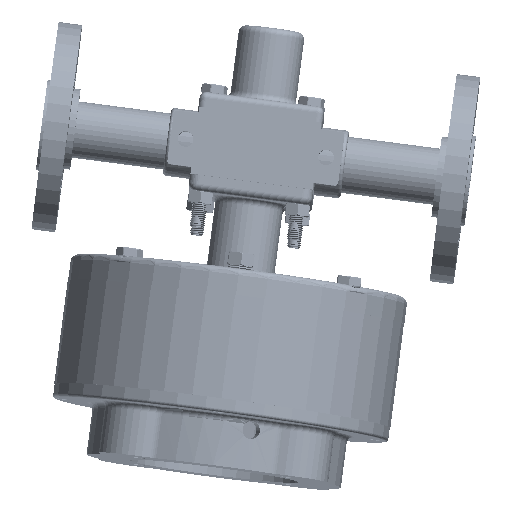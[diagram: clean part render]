
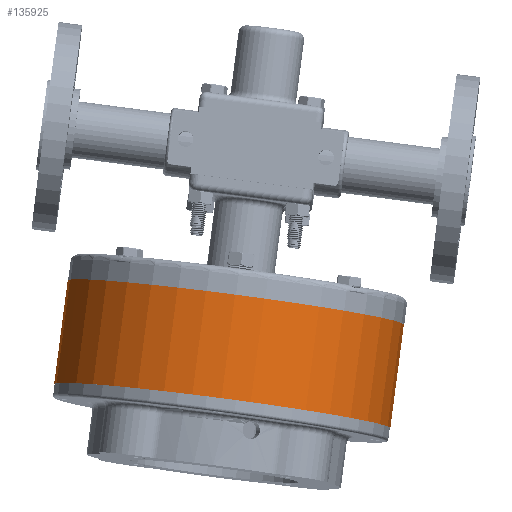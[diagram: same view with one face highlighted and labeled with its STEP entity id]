
A CAD part, front view. The second image highlights one B-rep face of the part: STEP entity #135925.
In plain terms, the highlighted cylindrical face has radius 79.756 mm (diameter 159.512 mm), a partial arc.
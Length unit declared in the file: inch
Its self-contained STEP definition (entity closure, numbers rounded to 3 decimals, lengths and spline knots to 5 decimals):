
#5154 = AXIS2_PLACEMENT_3D ( 'NONE', #9318, #56390, #7047 ) ;
#7047 = DIRECTION ( 'NONE',  ( -0.992, 0.01, 0.129 ) ) ;
#9181 = DIRECTION ( 'NONE',  ( -0.13, -0.046, -0.99 ) ) ;
#9318 = CARTESIAN_POINT ( 'NONE',  ( -0.63501, 99.70561, 30.96424 ) ) ;
#9874 = CARTESIAN_POINT ( 'NONE',  ( -0.63501, 99.70561, 30.96424 ) ) ;
#15764 = EDGE_CURVE ( 'NONE', #26390, #62039, #89692, .T. ) ;
#16629 = ORIENTED_EDGE ( 'NONE', *, *, #114317, .T. ) ;
#20576 = CARTESIAN_POINT ( 'NONE',  ( 2.47841, 99.6739, 30.55779 ) ) ;
#23527 = AXIS2_PLACEMENT_3D ( 'NONE', #9874, #89646, #78262 ) ;
#26390 = VERTEX_POINT ( 'NONE', #126314 ) ;
#35739 = LINE ( 'NONE', #20576, #142368 ) ;
#37669 = VECTOR ( 'NONE', #67684, 39.37008 ) ;
#38213 = CIRCLE ( 'NONE', #23527, 3.14 ) ;
#48423 = ORIENTED_EDGE ( 'NONE', *, *, #124238, .F. ) ;
#52952 = CARTESIAN_POINT ( 'NONE',  ( -3.99981, 99.64792, 29.45216 ) ) ;
#56390 = DIRECTION ( 'NONE',  ( -0.13, -0.046, -0.99 ) ) ;
#62039 = VERTEX_POINT ( 'NONE', #52952 ) ;
#67684 = DIRECTION ( 'NONE',  ( -0.13, -0.046, -0.99 ) ) ;
#78262 = DIRECTION ( 'NONE',  ( 0.992, -0.01, -0.129 ) ) ;
#81288 = CARTESIAN_POINT ( 'NONE',  ( 2.22703, 99.5845, 28.63925 ) ) ;
#89046 = DIRECTION ( 'NONE',  ( 0.13, 0.046, 0.99 ) ) ;
#89646 = DIRECTION ( 'NONE',  ( 0.13, 0.046, 0.99 ) ) ;
#89692 = LINE ( 'NONE', #136014, #37669 ) ;
#90587 = FACE_OUTER_BOUND ( 'NONE', #116706, .T. ) ;
#91305 = DIRECTION ( 'NONE',  ( 0.992, -0.01, -0.129 ) ) ;
#103516 = EDGE_CURVE ( 'NONE', #26390, #124074, #38213, .T. ) ;
#111686 = AXIS2_PLACEMENT_3D ( 'NONE', #113336, #89046, #91305 ) ;
#113336 = CARTESIAN_POINT ( 'NONE',  ( -0.88639, 99.61621, 29.04571 ) ) ;
#114102 = CYLINDRICAL_SURFACE ( 'NONE', #5154, 3.14 ) ;
#114317 = EDGE_CURVE ( 'NONE', #62039, #116940, #148112, .T. ) ;
#116706 = EDGE_LOOP ( 'NONE', ( #48423, #124831, #135382, #16629 ) ) ;
#116940 = VERTEX_POINT ( 'NONE', #81288 ) ;
#124074 = VERTEX_POINT ( 'NONE', #146657 ) ;
#124238 = EDGE_CURVE ( 'NONE', #124074, #116940, #35739, .T. ) ;
#124831 = ORIENTED_EDGE ( 'NONE', *, *, #103516, .F. ) ;
#126314 = CARTESIAN_POINT ( 'NONE',  ( -3.74843, 99.73732, 31.3707 ) ) ;
#135382 = ORIENTED_EDGE ( 'NONE', *, *, #15764, .T. ) ;
#135925 = ADVANCED_FACE ( 'NONE', ( #90587 ), #114102, .T. ) ;
#136014 = CARTESIAN_POINT ( 'NONE',  ( -3.74843, 99.73732, 31.3707 ) ) ;
#142368 = VECTOR ( 'NONE', #9181, 39.37008 ) ;
#146657 = CARTESIAN_POINT ( 'NONE',  ( 2.47841, 99.6739, 30.55779 ) ) ;
#148112 = CIRCLE ( 'NONE', #111686, 3.14 ) ;
